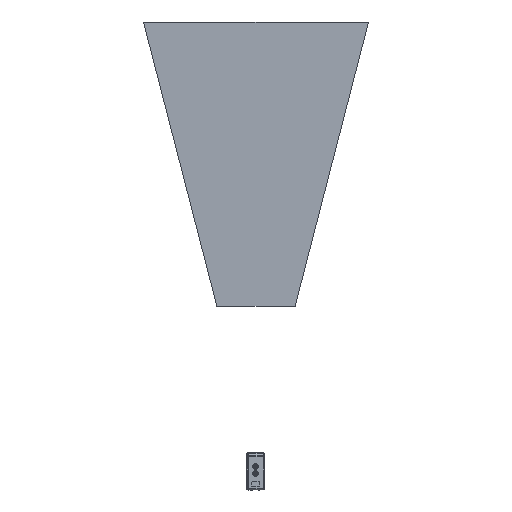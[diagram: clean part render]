
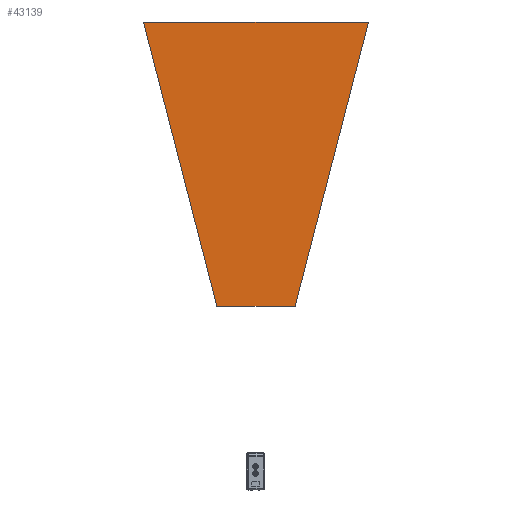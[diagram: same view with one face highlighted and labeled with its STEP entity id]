
A CAD part, left-side view. The second image highlights one B-rep face of the part: STEP entity #43139.
In plain terms, the highlighted planar face has unit normal (1, 0, 0).
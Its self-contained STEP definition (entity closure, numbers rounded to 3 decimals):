
#43100=DIRECTION('',(0.,-0.25,-0.968));
#43101=VECTOR('',#43100,939.854);
#43102=CARTESIAN_POINT('',(72.9,337.,1452.));
#43103=LINE('',#43102,#43101);
#43104=DIRECTION('',(0.,-1.,0.));
#43105=VECTOR('',#43104,250.);
#43106=CARTESIAN_POINT('',(72.9,102.,542.));
#43107=LINE('',#43106,#43105);
#43108=DIRECTION('',(0.,-0.25,0.968));
#43109=VECTOR('',#43108,939.854);
#43110=CARTESIAN_POINT('',(72.9,-148.,542.));
#43111=LINE('',#43110,#43109);
#43112=DIRECTION('',(0.,1.,0.));
#43113=VECTOR('',#43112,720.);
#43114=CARTESIAN_POINT('',(72.9,-383.,1452.));
#43115=LINE('',#43114,#43113);
#43116=CARTESIAN_POINT('',(72.9,102.,542.));
#43117=CARTESIAN_POINT('',(72.9,337.,1452.));
#43118=VERTEX_POINT('',#43116);
#43119=VERTEX_POINT('',#43117);
#43120=CARTESIAN_POINT('',(72.9,-383.,1452.));
#43121=VERTEX_POINT('',#43120);
#43122=CARTESIAN_POINT('',(72.9,-148.,542.));
#43123=VERTEX_POINT('',#43122);
#43124=CARTESIAN_POINT('',(72.9,0.,0.));
#43125=DIRECTION('',(1.,0.,0.));
#43126=DIRECTION('',(0.,-1.,0.));
#43127=AXIS2_PLACEMENT_3D('',#43124,#43125,#43126);
#43128=PLANE('',#43127);
#43130=ORIENTED_EDGE('',*,*,#43129,.T.);
#43132=ORIENTED_EDGE('',*,*,#43131,.T.);
#43134=ORIENTED_EDGE('',*,*,#43133,.T.);
#43136=ORIENTED_EDGE('',*,*,#43135,.T.);
#43137=EDGE_LOOP('',(#43130,#43132,#43134,#43136));
#43138=FACE_OUTER_BOUND('',#43137,.F.);
#43139=ADVANCED_FACE('',(#43138),#43128,.T.);
#43129=EDGE_CURVE('',#43119,#43118,#43103,.T.);
#43131=EDGE_CURVE('',#43118,#43123,#43107,.T.);
#43133=EDGE_CURVE('',#43123,#43121,#43111,.T.);
#43135=EDGE_CURVE('',#43121,#43119,#43115,.T.);
